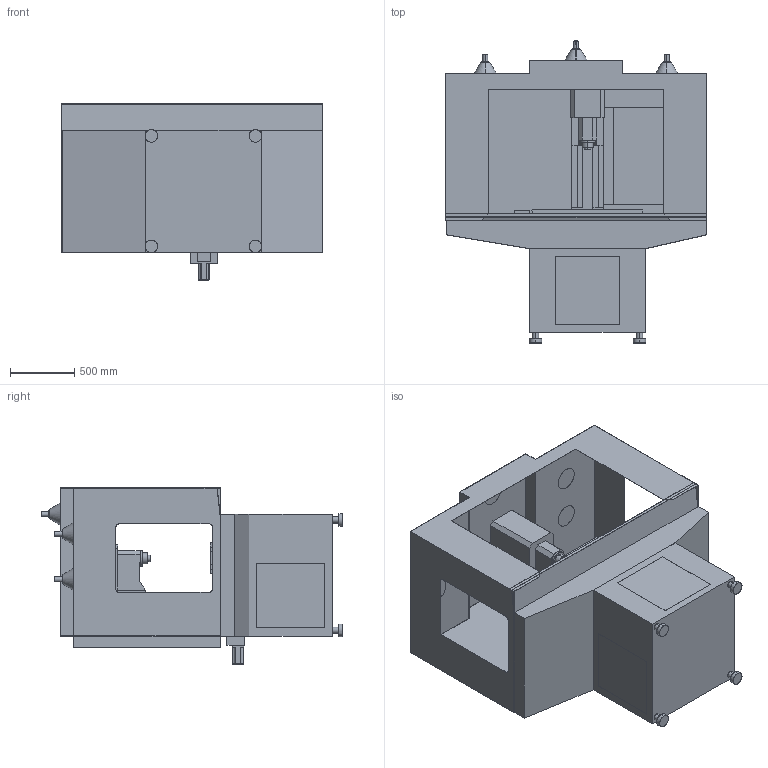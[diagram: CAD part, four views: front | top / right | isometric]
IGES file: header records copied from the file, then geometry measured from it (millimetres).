
Start section: SolidWorks IGES file using analytic representation for surfaces
Global section: file name: R:\Drawings\Files saved as other types\Solid_Models\MODELS FOR PUBLIC\PCNC-1100 WITH BASE AND ENCLOSURE.IGS; native system: SolidWorks 2012; preprocessor: SolidWorks 2012; author: rtooley; date: 140618.100140; units: millimetre
Bounding box: 2027.75 x 2350 x 1371.25 mm (x, y, z)
Surface area: 34625251.9 mm2 (no closed solid volume)
Topology: 0 solids, 0 shells, 624 faces, 7354 edges, 7354 vertices
Faces by surface type: bspline 455, revolution 169
